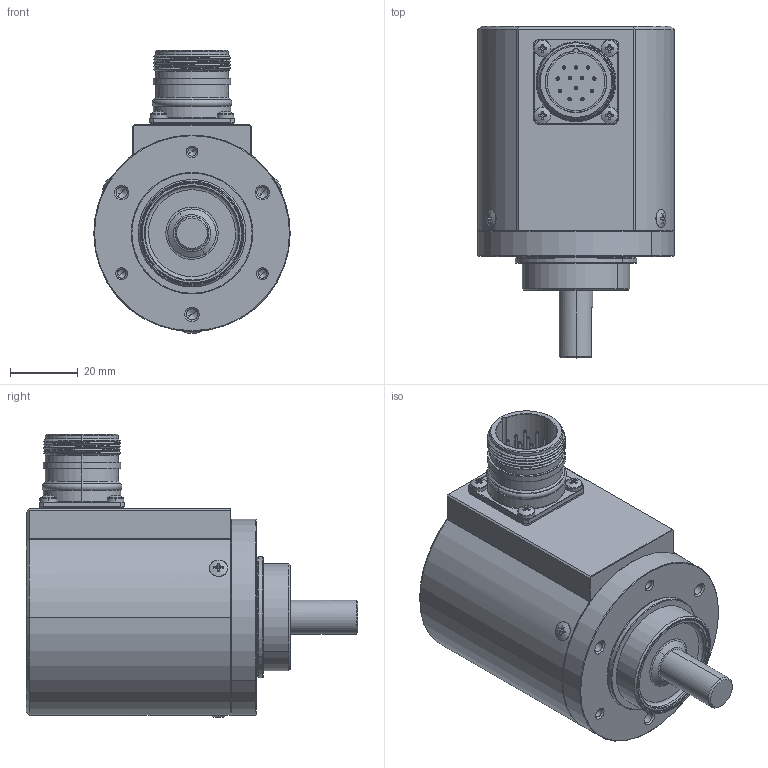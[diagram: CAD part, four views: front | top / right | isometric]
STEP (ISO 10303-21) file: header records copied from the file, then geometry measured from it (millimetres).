
FILE_DESCRIPTION (( 'STEP AP214' ), '1' );
FILE_NAME ('SSM11x5x.STEP', '2023-07-14T06:36:03', ( '' ), ( '' ), 'SwSTEP 2.0', 'SolidWorks 2019', '' );
FILE_SCHEMA (( 'AUTOMOTIVE_DESIGN' ));
Length unit declared in the file: millimetre
Products named in the file (1): SSM11x5x
Bounding box: 58 x 98 x 83.66 mm (x, y, z)
Volume: 82739.5 mm3; surface area: 44928.7 mm2
Topology: 1 solids, 2 shells, 808 faces, 1825 edges, 1063 vertices
Faces by surface type: plane 255, cone 228, cylinder 207, torus 80, bspline 38
Entity records: 37524 total; most frequent: CARTESIAN_POINT 10825, DIRECTION 3946, ORIENTED_EDGE 3570, EDGE_CURVE 1785, AXIS2_PLACEMENT_3D 1649, VERTEX_POINT 1063, EDGE_LOOP 894, CIRCLE 878
